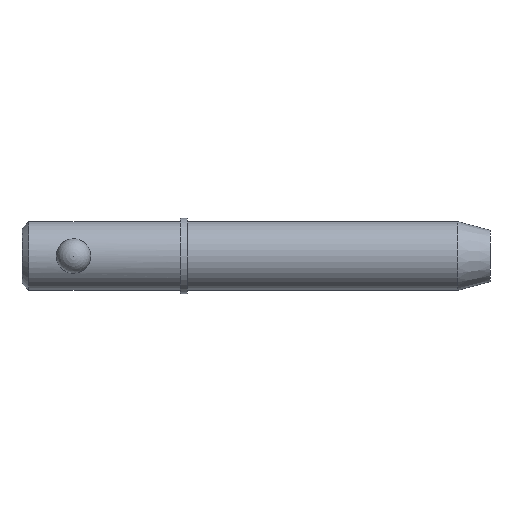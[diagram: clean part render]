
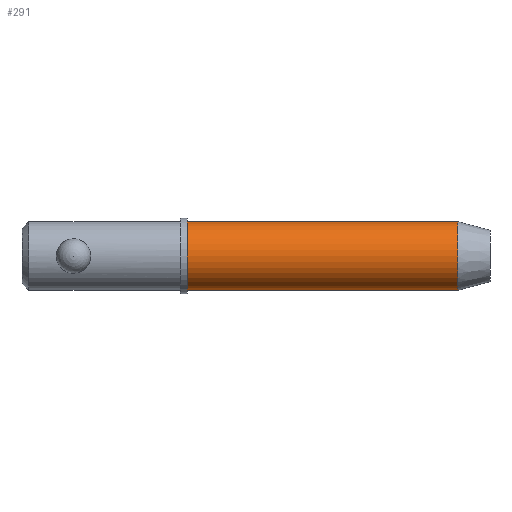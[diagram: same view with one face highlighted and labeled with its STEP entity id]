
A CAD part, front view. The second image highlights one B-rep face of the part: STEP entity #291.
In plain terms, the highlighted cylindrical face has radius 3.97 mm (diameter 7.94 mm), a partial arc.
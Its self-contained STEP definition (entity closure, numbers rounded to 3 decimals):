
#5 = AXIS2_PLACEMENT_3D ( 'NONE', #227, #540, #870 ) ;
#73 = CARTESIAN_POINT ( 'NONE',  ( 19.05, 0., 3.97 ) ) ;
#117 = EDGE_CURVE ( 'NONE', #974, #219, #247, .T. ) ;
#121 = CARTESIAN_POINT ( 'NONE',  ( 50.276, 0., -3.97 ) ) ;
#133 = CYLINDRICAL_SURFACE ( 'NONE', #5, 3.97 ) ;
#140 = EDGE_LOOP ( 'NONE', ( #852, #373, #792, #946 ) ) ;
#182 = CARTESIAN_POINT ( 'NONE',  ( 50.276, 0., 0. ) ) ;
#219 = VERTEX_POINT ( 'NONE', #121 ) ;
#227 = CARTESIAN_POINT ( 'NONE',  ( 0., 0., 0. ) ) ;
#247 = CIRCLE ( 'NONE', #908, 3.97 ) ;
#289 = CARTESIAN_POINT ( 'NONE',  ( 50.276, 0., 3.97 ) ) ;
#291 = ADVANCED_FACE ( 'NONE', ( #594 ), #133, .T. ) ;
#353 = DIRECTION ( 'NONE',  ( 1., 0., 0. ) ) ;
#367 = DIRECTION ( 'NONE',  ( 1., 0., 0. ) ) ;
#373 = ORIENTED_EDGE ( 'NONE', *, *, #616, .T. ) ;
#451 = CARTESIAN_POINT ( 'NONE',  ( 0., 0., 3.97 ) ) ;
#472 = DIRECTION ( 'NONE',  ( 1., 0., 0. ) ) ;
#515 = DIRECTION ( 'NONE',  ( 0., 0., -1. ) ) ;
#534 = DIRECTION ( 'NONE',  ( 1., 0., 0. ) ) ;
#540 = DIRECTION ( 'NONE',  ( 1., 0., 0. ) ) ;
#553 = EDGE_CURVE ( 'NONE', #1013, #219, #589, .T. ) ;
#558 = DIRECTION ( 'NONE',  ( 0., 0., -1. ) ) ;
#589 = LINE ( 'NONE', #912, #643 ) ;
#594 = FACE_OUTER_BOUND ( 'NONE', #140, .T. ) ;
#596 = CARTESIAN_POINT ( 'NONE',  ( 19.05, 0., 0. ) ) ;
#616 = EDGE_CURVE ( 'NONE', #1021, #1013, #627, .T. ) ;
#627 = CIRCLE ( 'NONE', #925, 3.97 ) ;
#643 = VECTOR ( 'NONE', #353, 1000. ) ;
#699 = LINE ( 'NONE', #451, #752 ) ;
#752 = VECTOR ( 'NONE', #534, 1000. ) ;
#792 = ORIENTED_EDGE ( 'NONE', *, *, #553, .T. ) ;
#852 = ORIENTED_EDGE ( 'NONE', *, *, #1019, .F. ) ;
#870 = DIRECTION ( 'NONE',  ( 0., 0., -1. ) ) ;
#908 = AXIS2_PLACEMENT_3D ( 'NONE', #182, #472, #558 ) ;
#912 = CARTESIAN_POINT ( 'NONE',  ( 0., 0., -3.97 ) ) ;
#925 = AXIS2_PLACEMENT_3D ( 'NONE', #596, #367, #515 ) ;
#946 = ORIENTED_EDGE ( 'NONE', *, *, #117, .F. ) ;
#974 = VERTEX_POINT ( 'NONE', #289 ) ;
#1013 = VERTEX_POINT ( 'NONE', #1018 ) ;
#1018 = CARTESIAN_POINT ( 'NONE',  ( 19.05, 0., -3.97 ) ) ;
#1019 = EDGE_CURVE ( 'NONE', #1021, #974, #699, .T. ) ;
#1021 = VERTEX_POINT ( 'NONE', #73 ) ;
